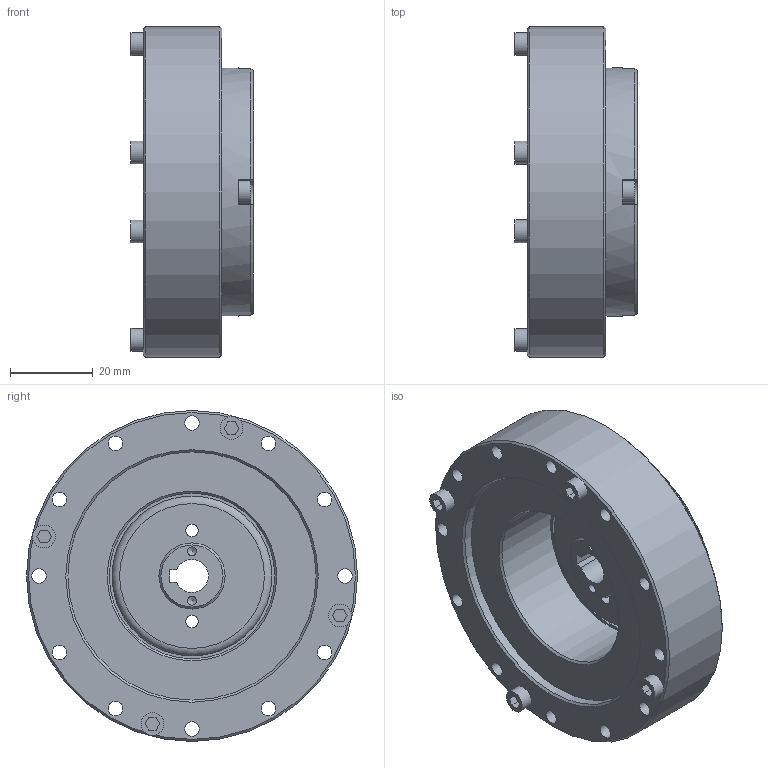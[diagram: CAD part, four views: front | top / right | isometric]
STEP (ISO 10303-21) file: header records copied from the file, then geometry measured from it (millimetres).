
FILE_DESCRIPTION(/* description */ (''),/* implementation_level */ '2;1');
FILE_NAME(/* name */ 'LHT-17-U-I.stp',/* time_stamp */ '2021-12-15T13:39:16+08:00',/* author */ (''),/* organization */ (''),/* preprocessor_version */ 'ST-DEVELOPER v16.7',/* originating_system */ 'SIEMENS PLM Software NX 12.0',/* authorisation */ '');
FILE_SCHEMA (('AUTOMOTIVE_DESIGN { 1 0 10303 214 3 1 1 1 }'));
Length unit declared in the file: millimetre
Products named in the file (1): LHT-17-U-I_stp
Bounding box: 29.5 x 80 x 80 mm (x, y, z)
Volume: 83497.2 mm3; surface area: 31867.5 mm2
Topology: 13 solids, 13 shells, 275 faces, 667 edges, 440 vertices
Faces by surface type: plane 120, cylinder 96, cone 57, torus 2
Full cylindrical faces by diameter (mm): 2.135 x2, 2.459 x20, 3 x4, 3.013 x2, 3.5 x41, 5.5 x9, 16 x1, 29.48 x2, 32 x2, 35 x1, 38.642 x2, 40 x2, 60 x2, 80 x1
Entity records: 6768 total; most frequent: DIRECTION 1197, CARTESIAN_POINT 1084, ORIENTED_EDGE 858, AXIS2_PLACEMENT_3D 494, EDGE_LOOP 478, EDGE_CURVE 429, FACE_BOUND 408, VERTEX_POINT 373
